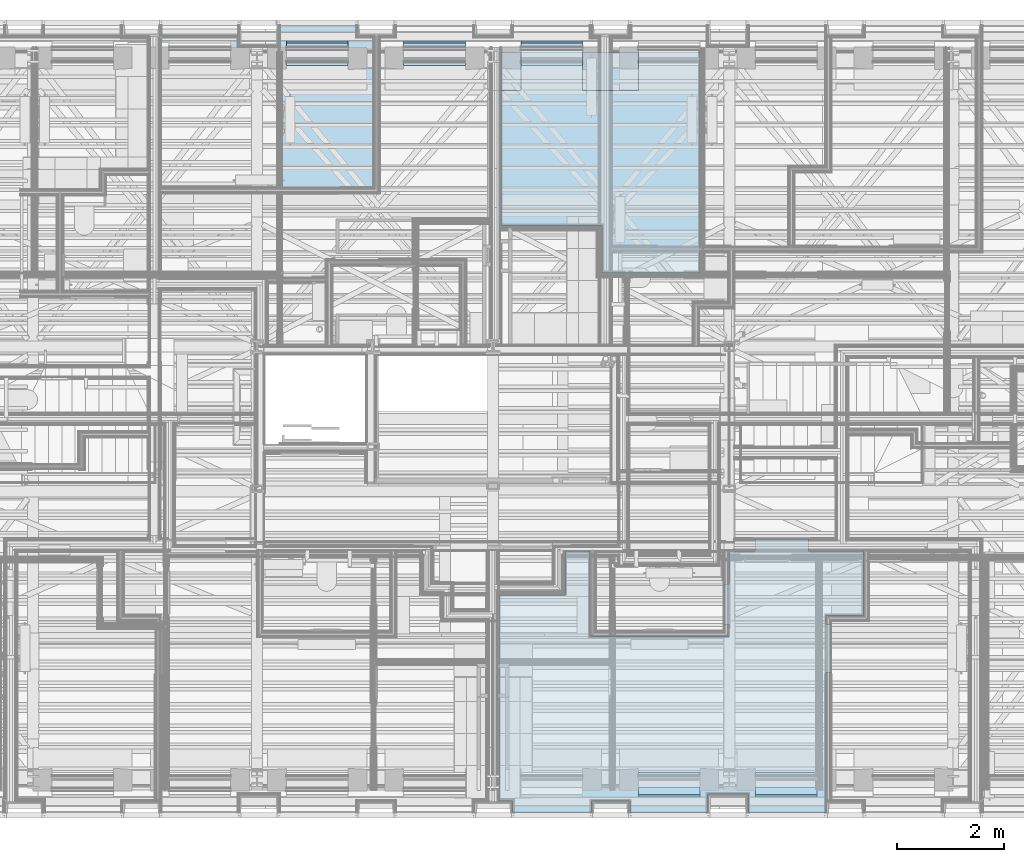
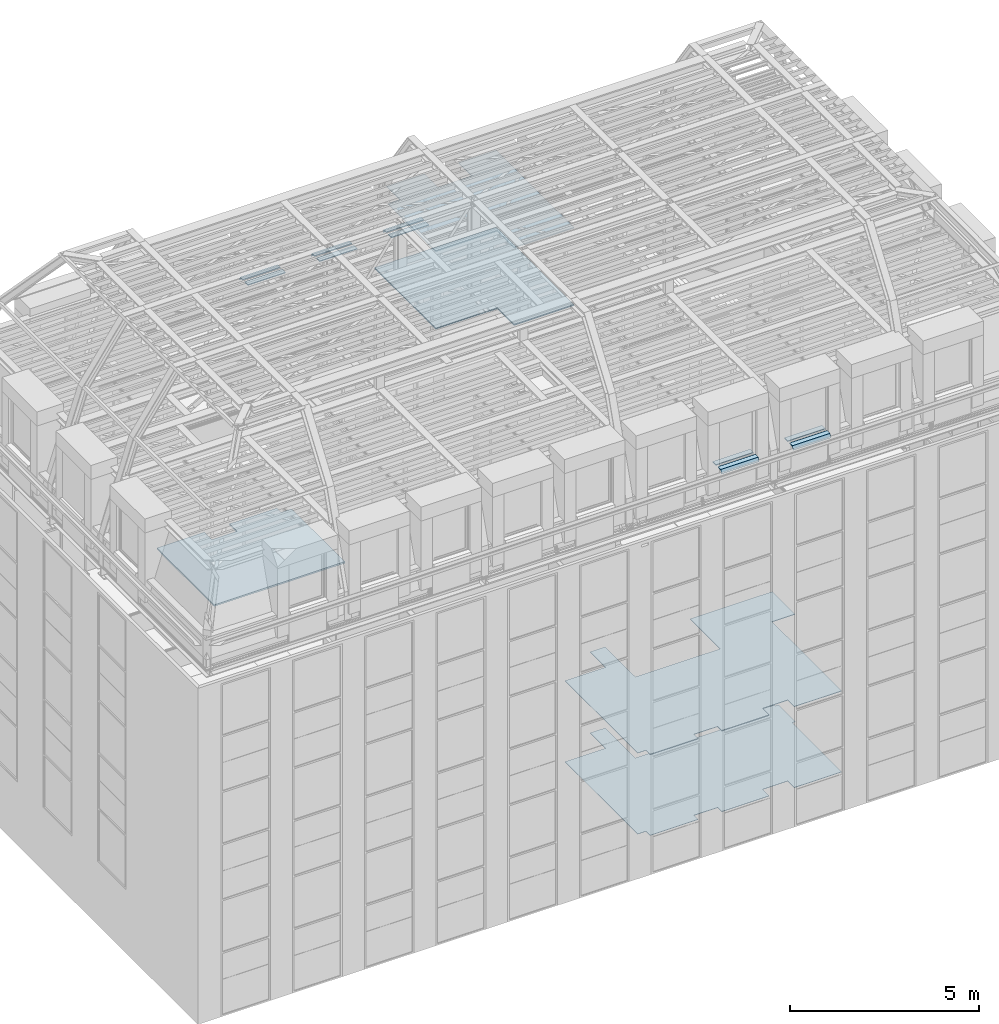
# One storey, part 90 of 183: 22 slabs.
"""IFC2X3 building model written with IfcOpenShell, lengths in metres."""

from ifc_helpers import new_model, entity, si_unit, converted_unit, derived_unit, money_unit, direction, frame, origin_with_axes, place, context, subcontext, project, spatial, faceted_brep, material, type_object, element, save


model = new_model("IFC2X3")

# Units and contexts
model_context = context("Model", 3, precision=1e-05, world=origin_with_axes(), true_north=direction((0.0, 1.0)))
body_context = subcontext(model_context, "Body", "Model", "MODEL_VIEW", scale=1.0)
ifc_project = project(units=[si_unit("LENGTHUNIT", "METRE"), si_unit("AREAUNIT", "SQUARE_METRE"), si_unit("VOLUMEUNIT", "CUBIC_METRE"), si_unit("ABSORBEDDOSEUNIT", "GRAY"), si_unit("AMOUNTOFSUBSTANCEUNIT", "MOLE"), si_unit("DOSEEQUIVALENTUNIT", "SIEVERT"), si_unit("ELECTRICCAPACITANCEUNIT", "FARAD"), si_unit("ELECTRICCHARGEUNIT", "COULOMB"), si_unit("ELECTRICCONDUCTANCEUNIT", "SIEMENS"), si_unit("ELECTRICCURRENTUNIT", "AMPERE"), si_unit("ELECTRICRESISTANCEUNIT", "OHM"), si_unit("ELECTRICVOLTAGEUNIT", "VOLT"), si_unit("ENERGYUNIT", "JOULE"), si_unit("FORCEUNIT", "NEWTON"), si_unit("FREQUENCYUNIT", "HERTZ"), si_unit("ILLUMINANCEUNIT", "LUX"), si_unit("INDUCTANCEUNIT", "HENRY"), si_unit("LUMINOUSFLUXUNIT", "LUMEN"), si_unit("LUMINOUSINTENSITYUNIT", "CANDELA"), si_unit("MAGNETICFLUXDENSITYUNIT", "TESLA"), si_unit("MAGNETICFLUXUNIT", "WEBER"), si_unit("MASSUNIT", "GRAM"), converted_unit("PLANEANGLEUNIT", "degree", entity("IfcReal", 0.0174532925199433), si_unit("PLANEANGLEUNIT", "RADIAN"), dimensions=[0, 0, 0, 0, 0, 0, 0]), si_unit("POWERUNIT", "WATT"), si_unit("PRESSUREUNIT", "PASCAL"), si_unit("RADIOACTIVITYUNIT", "BECQUEREL"), si_unit("SOLIDANGLEUNIT", "STERADIAN"), si_unit("THERMODYNAMICTEMPERATUREUNIT", "KELVIN"), si_unit("TIMEUNIT", "SECOND"), derived_unit("ACCELERATIONUNIT", [(si_unit("LENGTHUNIT", "METRE"), 1), (si_unit("TIMEUNIT", "SECOND"), -2)]), derived_unit("ANGULARVELOCITYUNIT", [(converted_unit("PLANEANGLEUNIT", "degree", entity("IfcReal", 0.0174532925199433), si_unit("PLANEANGLEUNIT", "RADIAN"), dimensions=[0, 0, 0, 0, 0, 0, 0]), 1), (si_unit("TIMEUNIT", "SECOND"), -1)]), derived_unit("CURVATUREUNIT", [(converted_unit("PLANEANGLEUNIT", "degree", entity("IfcReal", 0.0174532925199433), si_unit("PLANEANGLEUNIT", "RADIAN"), dimensions=[0, 0, 0, 0, 0, 0, 0]), 1), (si_unit("LENGTHUNIT", "METRE"), -1)]), derived_unit("DYNAMICVISCOSITYUNIT", [(si_unit("PRESSUREUNIT", "PASCAL"), 1), (si_unit("TIMEUNIT", "SECOND"), 1)]), derived_unit("HEATFLUXDENSITYUNIT", [(si_unit("POWERUNIT", "WATT"), 1), (si_unit("LENGTHUNIT", "METRE"), -2)]), derived_unit("HEATINGVALUEUNIT", [(si_unit("ENERGYUNIT", "JOULE"), 1), (si_unit("MASSUNIT", "GRAM"), -1)]), derived_unit("INTEGERCOUNTRATEUNIT", [(si_unit("TIMEUNIT", "SECOND"), -1)]), derived_unit("IONCONCENTRATIONUNIT", [(si_unit("MASSUNIT", "GRAM"), 1), (si_unit("VOLUMEUNIT", "CUBIC_METRE"), -1)]), derived_unit("ISOTHERMALMOISTURECAPACITYUNIT", [(si_unit("VOLUMEUNIT", "CUBIC_METRE"), 1), (si_unit("MASSUNIT", "GRAM"), -1)]), derived_unit("KINEMATICVISCOSITYUNIT", [(si_unit("AREAUNIT", "SQUARE_METRE"), 1), (si_unit("TIMEUNIT", "SECOND"), -1)]), derived_unit("LINEARFORCEUNIT", [(si_unit("FORCEUNIT", "NEWTON"), 1), (si_unit("LENGTHUNIT", "METRE"), -1)]), derived_unit("LINEARMOMENTUNIT", [(si_unit("FORCEUNIT", "NEWTON"), 1), (si_unit("LENGTHUNIT", "METRE"), -1)]), derived_unit("LINEARSTIFFNESSUNIT", [(si_unit("FORCEUNIT", "NEWTON"), 1), (si_unit("LENGTHUNIT", "METRE"), -1)]), derived_unit("LINEARVELOCITYUNIT", [(si_unit("LENGTHUNIT", "METRE"), 1), (si_unit("TIMEUNIT", "SECOND"), -1)]), derived_unit("LUMINOUSINTENSITYDISTRIBUTIONUNIT", [(si_unit("LUMINOUSINTENSITYUNIT", "CANDELA"), 1), (si_unit("LUMINOUSFLUXUNIT", "LUMEN"), -1)]), derived_unit("MASSDENSITYUNIT", [(si_unit("MASSUNIT", "GRAM"), 1), (si_unit("VOLUMEUNIT", "CUBIC_METRE"), -1)]), derived_unit("MASSFLOWRATEUNIT", [(si_unit("MASSUNIT", "GRAM"), 1), (si_unit("TIMEUNIT", "SECOND"), -1)]), derived_unit("MASSPERLENGTHUNIT", [(si_unit("MASSUNIT", "GRAM"), 1), (si_unit("LENGTHUNIT", "METRE"), -1)]), derived_unit("MODULUSOFELASTICITYUNIT", [(si_unit("FORCEUNIT", "NEWTON"), 1), (si_unit("AREAUNIT", "SQUARE_METRE"), -1)]), derived_unit("MODULUSOFLINEARSUBGRADEREACTIONUNIT", [(si_unit("FORCEUNIT", "NEWTON"), 1), (si_unit("LENGTHUNIT", "METRE"), -2)]), derived_unit("MODULUSOFROTATIONALSUBGRADEREACTIONUNIT", [(si_unit("FORCEUNIT", "NEWTON"), 1), (si_unit("LENGTHUNIT", "METRE"), 1)]), derived_unit("MODULUSOFSUBGRADEREACTIONUNIT", [(si_unit("FORCEUNIT", "NEWTON"), 1), (si_unit("VOLUMEUNIT", "CUBIC_METRE"), -1)]), derived_unit("MOISTUREDIFFUSIVITYUNIT", [(si_unit("VOLUMEUNIT", "CUBIC_METRE"), 1), (si_unit("TIMEUNIT", "SECOND"), -1)]), derived_unit("MOLECULARWEIGHTUNIT", [(si_unit("MASSUNIT", "GRAM"), 1), (si_unit("AMOUNTOFSUBSTANCEUNIT", "MOLE"), -1)]), derived_unit("PLANARFORCEUNIT", [(si_unit("FORCEUNIT", "NEWTON"), 1), (si_unit("LENGTHUNIT", "METRE"), -2)]), derived_unit("ROTATIONALFREQUENCYUNIT", [(si_unit("TIMEUNIT", "SECOND"), -1)]), derived_unit("ROTATIONALMASSUNIT", [(si_unit("MASSUNIT", "GRAM"), 1), (si_unit("LENGTHUNIT", "METRE"), 2)]), derived_unit("ROTATIONALSTIFFNESSUNIT", [(si_unit("FORCEUNIT", "NEWTON"), 1), (si_unit("LENGTHUNIT", "METRE"), 1), (converted_unit("PLANEANGLEUNIT", "degree", entity("IfcReal", 0.0174532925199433), si_unit("PLANEANGLEUNIT", "RADIAN"), dimensions=[0, 0, 0, 0, 0, 0, 0]), -1)]), derived_unit("SECTIONAREAINTEGRALUNIT", [(si_unit("LENGTHUNIT", "METRE"), 5)]), derived_unit("SECTIONMODULUSUNIT", [(si_unit("LENGTHUNIT", "METRE"), 3)]), derived_unit("SHEARMODULUSUNIT", [(si_unit("FORCEUNIT", "NEWTON"), 1), (si_unit("AREAUNIT", "SQUARE_METRE"), -1)]), derived_unit("SOUNDPOWERUNIT", [(si_unit("ENERGYUNIT", "JOULE"), 1), (si_unit("TIMEUNIT", "SECOND"), -1)]), derived_unit("SPECIFICHEATCAPACITYUNIT", [(si_unit("FORCEUNIT", "NEWTON"), 1), (si_unit("MASSUNIT", "GRAM"), -1), (si_unit("THERMODYNAMICTEMPERATUREUNIT", "KELVIN"), -1)]), derived_unit("TEMPERATUREGRADIENTUNIT", [(si_unit("THERMODYNAMICTEMPERATUREUNIT", "KELVIN"), 1), (si_unit("LENGTHUNIT", "METRE"), -1)]), derived_unit("THERMALADMITTANCEUNIT", [(si_unit("POWERUNIT", "WATT"), 1), (si_unit("AREAUNIT", "SQUARE_METRE"), -1), (si_unit("THERMODYNAMICTEMPERATUREUNIT", "KELVIN"), -1)]), derived_unit("THERMALCONDUCTANCEUNIT", [(si_unit("POWERUNIT", "WATT"), 1), (si_unit("LENGTHUNIT", "METRE"), -1), (si_unit("THERMODYNAMICTEMPERATUREUNIT", "KELVIN"), -1)]), derived_unit("THERMALEXPANSIONCOEFFICIENTUNIT", [(si_unit("THERMODYNAMICTEMPERATUREUNIT", "KELVIN"), -1)]), derived_unit("THERMALRESISTANCEUNIT", [(si_unit("AREAUNIT", "SQUARE_METRE"), 1), (si_unit("POWERUNIT", "WATT"), -1)]), derived_unit("THERMALTRANSMITTANCEUNIT", [(si_unit("POWERUNIT", "WATT"), 1), (si_unit("AREAUNIT", "SQUARE_METRE"), -1), (si_unit("THERMODYNAMICTEMPERATUREUNIT", "KELVIN"), -1)]), derived_unit("TORQUEUNIT", [(si_unit("FORCEUNIT", "NEWTON"), 1), (si_unit("LENGTHUNIT", "METRE"), 1)]), derived_unit("VAPORPERMEABILITYUNIT", [(si_unit("MASSUNIT", "GRAM"), 1), (si_unit("TIMEUNIT", "SECOND"), -1)]), derived_unit("VOLUMETRICFLOWRATEUNIT", [(si_unit("VOLUMEUNIT", "CUBIC_METRE"), 1), (si_unit("TIMEUNIT", "SECOND"), -1)]), derived_unit("WARPINGCONSTANTUNIT", [(si_unit("LENGTHUNIT", "METRE"), 6)]), derived_unit("WARPINGMOMENTUNIT", [(si_unit("FORCEUNIT", "NEWTON"), 1), (si_unit("LENGTHUNIT", "METRE"), 2)]), money_unit("GBP")], contexts=[model_context])

# Site, building, storey
site_placement = place(None, origin_with_axes())
site = spatial("IfcSite", under=ifc_project, at=site_placement, Name="Site", CompositionType="ELEMENT")
building_placement = place(site_placement, origin_with_axes())
building = spatial("IfcBuilding", under=site, at=building_placement, Name="Building01", CompositionType="ELEMENT")
storey_placement = place(building_placement, frame((0.0, 0.0, 5.15), z_axis=(0.0, 0.0, 1.0), x_axis=(1.0, 0.0, 0.0)))
storey = spatial("IfcBuildingStorey", under=building, at=storey_placement, Name="1F", CompositionType="ELEMENT", Elevation=5.15)

# Slabs
ifc_material_1 = material(Name="A_BSUK_Parquet_Floor")
slab_type_1 = type_object("IfcSlabType", Name="A-FloorsSlabs A_BSUK_Slabs", PredefinedType="FLOOR")
placement = place(storey_placement, frame((0.0, 0.0, -5.15), z_axis=(0.0, 0.0, 1.0), x_axis=(1.0, 0.0, 0.0)))
element("IfcSlab", 1, at=placement, inside=storey, type_object=slab_type_1, material=ifc_material_1, Name="A-FloorsSlabs A_BSUK_Slabs", ObjectType="CompoundSlabLeaf", context=body_context, shape_type="Brep", body=[
    faceted_brep([(18.392, 4.98, 5.153), (18.392, 4.98, 5.165), (18.392, 5.205, 5.165), (18.392, 5.205, 5.153), (17.9025, 4.98, 5.153), (17.9025, 4.98, 5.165), (17.9025, 4.363781, 5.153), (17.9025, 4.363781, 5.165), (17.8075, 4.363781, 5.153), (17.8075, 4.363781, 5.165), (17.8075, 3.613781, 5.153), (17.8075, 3.613781, 5.165), (17.9025, 3.613781, 5.153), (17.9025, 3.613781, 5.165), (17.9025, 3.385, 5.153), (17.9025, 3.385, 5.165), (15.3125, 3.385, 5.153), (15.3125, 3.385, 5.165), (15.3125, 4.98, 5.153), (15.3125, 4.98, 5.165), (14.85, 4.98, 5.153), (14.85, 4.98, 5.165), (14.85, 4.164428, 5.153), (14.85, 4.164428, 5.165), (13.6125, 4.164428, 5.153), (13.6125, 4.164428, 5.165), (13.6125, 0.318, 5.153), (13.6125, 0.318, 5.165), (13.865, 0.318, 5.153), (13.865, 0.318, 5.165), (13.865, 0.1, 5.153), (13.865, 0.1, 5.165), (15.335, 0.1, 5.153), (15.335, 0.1, 5.165), (15.335, 0.318, 5.153), (15.335, 0.318, 5.165), (16.055, 0.318, 5.153), (16.055, 0.318, 5.165), (16.055, 0.1, 5.153), (16.055, 0.1, 5.165), (17.502, 0.1, 5.153), (17.502, 0.1, 5.165), (17.502, 0.448, 5.153), (17.502, 0.448, 5.165), (18.268, 0.448, 5.153), (18.268, 0.448, 5.165), (18.268, 0.1, 5.153), (18.268, 0.1, 5.165), (19.715, 0.1, 5.153), (19.715, 0.1, 5.165), (19.715, 2.716, 5.153), (19.715, 2.716, 5.165), (19.81, 2.716, 5.153), (19.81, 2.716, 5.165), (19.81, 3.616, 5.153), (19.81, 3.616, 5.165), (19.715, 3.616, 5.153), (19.715, 3.616, 5.165), (19.715, 3.78, 5.153), (19.715, 3.78, 5.165), (20.415, 3.78, 5.153), (20.415, 3.78, 5.165), (20.415, 4.98, 5.153), (20.415, 4.98, 5.165), (19.392, 4.98, 5.153), (19.392, 4.98, 5.165), (19.392, 5.205, 5.153), (19.392, 5.205, 5.165)], [[[0, 1, 2, 3]], [[4, 5, 1, 0]], [[6, 7, 5, 4]], [[8, 9, 7, 6]], [[10, 11, 9, 8]], [[12, 13, 11, 10]], [[14, 15, 13, 12]], [[16, 17, 15, 14]], [[18, 19, 17, 16]], [[20, 21, 19, 18]], [[22, 23, 21, 20]], [[24, 25, 23, 22]], [[26, 27, 25, 24]], [[28, 29, 27, 26]], [[30, 31, 29, 28]], [[32, 33, 31, 30]], [[34, 35, 33, 32]], [[36, 37, 35, 34]], [[38, 39, 37, 36]], [[40, 41, 39, 38]], [[42, 43, 41, 40]], [[44, 45, 43, 42]], [[46, 47, 45, 44]], [[48, 49, 47, 46]], [[50, 51, 49, 48]], [[52, 53, 51, 50]], [[54, 55, 53, 52]], [[56, 57, 55, 54]], [[58, 59, 57, 56]], [[60, 61, 59, 58]], [[62, 63, 61, 60]], [[64, 65, 63, 62]], [[66, 67, 65, 64]], [[3, 2, 67, 66]], [[1, 5, 7, 9, 11, 13, 15, 17, 19, 21, 23, 25, 27, 29, 31, 33, 35, 37, 39, 41, 43, 45, 47, 49, 51, 53, 55, 57, 59, 61, 63, 65, 67, 2]], [[3, 66, 64, 62, 60, 58, 56, 54, 52, 50, 48, 46, 44, 42, 40, 38, 36, 34, 32, 30, 28, 26, 24, 22, 20, 18, 16, 14, 12, 10, 8, 6, 4, 0]]]),
])
ifc_material_2 = material(Name="A_BSUK_CeilingSoffitFinishes_Suspended")
element("IfcSlab", 2, at=placement, inside=storey, type_object=slab_type_1, material=ifc_material_2, Name="A-FloorsSlabs A_BSUK_Slabs", ObjectType="CompoundSlabLeaf", context=body_context, shape_type="Brep", body=[
    faceted_brep([(17.9025, 4.98, 7.765), (17.9025, 4.98, 7.78), (18.395, 4.98, 7.78), (18.395, 4.98, 7.765), (17.9025, 4.232781, 7.765), (17.9025, 4.232781, 7.78), (17.9025, 3.385, 7.765), (17.9025, 3.385, 7.78), (15.3125, 3.385, 7.765), (15.3125, 3.385, 7.78), (15.3125, 4.98, 7.765), (15.3125, 4.98, 7.78), (14.85, 4.98, 7.765), (14.85, 4.98, 7.78), (14.85, 4.164428, 7.765), (14.85, 4.164428, 7.78), (13.6125, 4.164428, 7.765), (13.6125, 4.164428, 7.78), (13.6125, 0.318, 7.765), (13.6125, 0.318, 7.78), (13.865, 0.318, 7.765), (13.865, 0.318, 7.78), (13.865, 0.1, 7.765), (13.865, 0.1, 7.78), (15.335, 0.1, 7.765), (15.335, 0.1, 7.78), (15.335, 0.318, 7.765), (15.335, 0.318, 7.78), (16.055, 0.318, 7.765), (16.055, 0.318, 7.78), (16.055, 0.1, 7.765), (16.055, 0.1, 7.78), (17.502, 0.1, 7.765), (17.502, 0.1, 7.78), (17.502, 0.448, 7.765), (17.502, 0.448, 7.78), (18.268, 0.448, 7.765), (18.268, 0.448, 7.78), (18.268, 0.1, 7.765), (18.268, 0.1, 7.78), (19.715, 0.1, 7.765), (19.715, 0.1, 7.78), (19.715, 3.151781, 7.765), (19.715, 3.151781, 7.78), (19.715, 3.78, 7.765), (19.715, 3.78, 7.78), (20.415, 3.78, 7.765), (20.415, 3.78, 7.78), (20.415, 4.98, 7.765), (20.415, 4.98, 7.78), (19.395, 4.98, 7.765), (19.395, 4.98, 7.78)], [[[0, 1, 2, 3]], [[4, 5, 1, 0]], [[6, 7, 5, 4]], [[8, 9, 7, 6]], [[10, 11, 9, 8]], [[12, 13, 11, 10]], [[14, 15, 13, 12]], [[16, 17, 15, 14]], [[18, 19, 17, 16]], [[20, 21, 19, 18]], [[22, 23, 21, 20]], [[24, 25, 23, 22]], [[26, 27, 25, 24]], [[28, 29, 27, 26]], [[30, 31, 29, 28]], [[32, 33, 31, 30]], [[34, 35, 33, 32]], [[36, 37, 35, 34]], [[38, 39, 37, 36]], [[40, 41, 39, 38]], [[42, 43, 41, 40]], [[44, 45, 43, 42]], [[46, 47, 45, 44]], [[48, 49, 47, 46]], [[50, 51, 49, 48]], [[3, 2, 51, 50]], [[1, 5, 7, 9, 11, 13, 15, 17, 19, 21, 23, 25, 27, 29, 31, 33, 35, 37, 39, 41, 43, 45, 47, 49, 51, 2]], [[3, 50, 48, 46, 44, 42, 40, 38, 36, 34, 32, 30, 28, 26, 24, 22, 20, 18, 16, 14, 12, 10, 8, 6, 4, 0]]]),
])
ifc_material_3 = material(Name="A_BSUK_Timber_Miscellaneous")
slab_3_placement = place(storey_placement, frame((15.170024, 14.324696, 10.78), z_axis=(0.0, 0.0, 1.0), x_axis=(1.0, 0.0, 0.0)))
element("IfcSlab", 3, at=slab_3_placement, inside=storey, type_object=slab_type_1, material=ifc_material_3, Name="A-FloorsSlabs A_BSUK_Slabs", ObjectType="A-FloorsSlabs A_BSUK_Slabs", context=body_context, shape_type="Brep", body=[
    faceted_brep([(0.0, 0.0, 0.022498), (-1.15, 0.0, 0.022498), (-1.15, 0.0, 0.0), (0.0, 0.0, 0.0), (0.0, 0.142391, 0.017505), (-1.15, 0.142391, 0.017505), (0.0, 0.148079, 0.0), (-1.15, 0.148079, 0.0)], [[[0, 1, 2, 3]], [[4, 5, 1, 0]], [[6, 7, 5, 4]], [[3, 2, 7, 6]], [[1, 5, 7, 2]], [[3, 6, 4, 0]]]),
])
ifc_material_4 = material(Name="A_BSUK_Steel_Miscellaneous")
slab_4_placement = place(storey_placement, frame((15.170024, 14.324696, 10.802498), z_axis=(0.0, 0.0, 1.0), x_axis=(1.0, 0.0, 0.0)))
element("IfcSlab", 4, at=slab_4_placement, inside=storey, type_object=slab_type_1, material=ifc_material_4, Name="A-FloorsSlabs A_BSUK_Slabs", ObjectType="A-FloorsSlabs A_BSUK_Slabs", context=body_context, shape_type="Brep", body=[
    faceted_brep([(0.0, 0.0, 0.007502), (-1.15, 0.0, 0.007502), (-1.15, 0.0, 0.0), (0.0, 0.0, 0.0), (0.0, 0.001, 0.007502), (-1.15, 0.001, 0.007502), (0.0, 0.0025, 0.002414), (-1.15, 0.0025, 0.002414), (0.0, 0.144228, -0.002556), (-1.15, 0.144228, -0.002556), (0.0, 0.183199, -0.122498), (-1.15, 0.183199, -0.122498), (0.0, 0.183199, -0.127498), (-1.15, 0.183199, -0.127498), (0.0, 0.180699, -0.127498), (-1.15, 0.180699, -0.127498), (0.0, 0.180699, -0.122894), (-1.15, 0.180699, -0.122894), (0.0, 0.142391, -0.004993), (-1.15, 0.142391, -0.004993)], [[[0, 1, 2, 3]], [[4, 5, 1, 0]], [[6, 7, 5, 4]], [[8, 9, 7, 6]], [[10, 11, 9, 8]], [[12, 13, 11, 10]], [[14, 15, 13, 12]], [[16, 17, 15, 14]], [[18, 19, 17, 16]], [[3, 2, 19, 18]], [[1, 5, 7, 9, 11, 13, 15, 17, 19, 2]], [[3, 18, 16, 14, 12, 10, 8, 6, 4, 0]]]),
])
slab_5_placement = place(storey_placement, frame((12.980024, 14.324696, 10.78), z_axis=(0.0, 0.0, 1.0), x_axis=(1.0, 0.0, 0.0)))
element("IfcSlab", 5, at=slab_5_placement, inside=storey, type_object=slab_type_1, material=ifc_material_3, Name="A-FloorsSlabs A_BSUK_Slabs", ObjectType="A-FloorsSlabs A_BSUK_Slabs", context=body_context, shape_type="Brep", body=[
    faceted_brep([(0.0, 0.0, 0.022498), (-1.15, 0.0, 0.022498), (-1.15, 0.0, 0.0), (0.0, 0.0, 0.0), (0.0, 0.142391, 0.017505), (-1.15, 0.142391, 0.017505), (0.0, 0.148079, 0.0), (-1.15, 0.148079, 0.0)], [[[0, 1, 2, 3]], [[4, 5, 1, 0]], [[6, 7, 5, 4]], [[3, 2, 7, 6]], [[1, 5, 7, 2]], [[3, 6, 4, 0]]]),
])
slab_6_placement = place(storey_placement, frame((12.980024, 14.324696, 10.802498), z_axis=(0.0, 0.0, 1.0), x_axis=(1.0, 0.0, 0.0)))
element("IfcSlab", 6, at=slab_6_placement, inside=storey, type_object=slab_type_1, material=ifc_material_4, Name="A-FloorsSlabs A_BSUK_Slabs", ObjectType="A-FloorsSlabs A_BSUK_Slabs", context=body_context, shape_type="Brep", body=[
    faceted_brep([(0.0, 0.0, 0.007502), (-1.15, 0.0, 0.007502), (-1.15, 0.0, 0.0), (0.0, 0.0, 0.0), (0.0, 0.001, 0.007502), (-1.15, 0.001, 0.007502), (0.0, 0.0025, 0.002414), (-1.15, 0.0025, 0.002414), (0.0, 0.144228, -0.002556), (-1.15, 0.144228, -0.002556), (0.0, 0.183199, -0.122498), (-1.15, 0.183199, -0.122498), (0.0, 0.183199, -0.127498), (-1.15, 0.183199, -0.127498), (0.0, 0.180699, -0.127498), (-1.15, 0.180699, -0.127498), (0.0, 0.180699, -0.122894), (-1.15, 0.180699, -0.122894), (0.0, 0.142391, -0.004993), (-1.15, 0.142391, -0.004993)], [[[0, 1, 2, 3]], [[4, 5, 1, 0]], [[6, 7, 5, 4]], [[8, 9, 7, 6]], [[10, 11, 9, 8]], [[12, 13, 11, 10]], [[14, 15, 13, 12]], [[16, 17, 15, 14]], [[18, 19, 17, 16]], [[3, 2, 19, 18]], [[1, 5, 7, 9, 11, 13, 15, 17, 19, 2]], [[3, 18, 16, 14, 12, 10, 8, 6, 4, 0]]]),
])
slab_7_placement = place(storey_placement, frame((10.790024, 14.324696, 10.78), z_axis=(0.0, 0.0, 1.0), x_axis=(1.0, 0.0, 0.0)))
element("IfcSlab", 7, at=slab_7_placement, inside=storey, type_object=slab_type_1, material=ifc_material_3, Name="A-FloorsSlabs A_BSUK_Slabs", ObjectType="A-FloorsSlabs A_BSUK_Slabs", context=body_context, shape_type="Brep", body=[
    faceted_brep([(0.0, 0.0, 0.022498), (-1.15, 0.0, 0.022498), (-1.15, 0.0, 0.0), (0.0, 0.0, 0.0), (0.0, 0.142391, 0.017505), (-1.15, 0.142391, 0.017505), (0.0, 0.148079, 0.0), (-1.15, 0.148079, 0.0)], [[[0, 1, 2, 3]], [[4, 5, 1, 0]], [[6, 7, 5, 4]], [[3, 2, 7, 6]], [[1, 5, 7, 2]], [[3, 6, 4, 0]]]),
])
slab_8_placement = place(storey_placement, frame((10.790024, 14.324696, 10.802498), z_axis=(0.0, 0.0, 1.0), x_axis=(1.0, 0.0, 0.0)))
element("IfcSlab", 8, at=slab_8_placement, inside=storey, type_object=slab_type_1, material=ifc_material_4, Name="A-FloorsSlabs A_BSUK_Slabs", ObjectType="A-FloorsSlabs A_BSUK_Slabs", context=body_context, shape_type="Brep", body=[
    faceted_brep([(0.0, 0.0, 0.007502), (-1.15, 0.0, 0.007502), (-1.15, 0.0, 0.0), (0.0, 0.0, 0.0), (0.0, 0.001, 0.007502), (-1.15, 0.001, 0.007502), (0.0, 0.0025, 0.002414), (-1.15, 0.0025, 0.002414), (0.0, 0.144228, -0.002556), (-1.15, 0.144228, -0.002556), (0.0, 0.183199, -0.122498), (-1.15, 0.183199, -0.122498), (0.0, 0.183199, -0.127498), (-1.15, 0.183199, -0.127498), (0.0, 0.180699, -0.127498), (-1.15, 0.180699, -0.127498), (0.0, 0.180699, -0.122894), (-1.15, 0.180699, -0.122894), (0.0, 0.142391, -0.004993), (-1.15, 0.142391, -0.004993)], [[[0, 1, 2, 3]], [[4, 5, 1, 0]], [[6, 7, 5, 4]], [[8, 9, 7, 6]], [[10, 11, 9, 8]], [[12, 13, 11, 10]], [[14, 15, 13, 12]], [[16, 17, 15, 14]], [[18, 19, 17, 16]], [[3, 2, 19, 18]], [[1, 5, 7, 9, 11, 13, 15, 17, 19, 2]], [[3, 18, 16, 14, 12, 10, 8, 6, 4, 0]]]),
])
slab_9_placement = place(storey_placement, frame((17.360024, 0.575339, 10.78), z_axis=(0.0, 0.0, 1.0), x_axis=(-1.0, 0.0, 0.0)))
element("IfcSlab", 9, at=slab_9_placement, inside=storey, type_object=slab_type_1, material=ifc_material_3, Name="A-FloorsSlabs A_BSUK_Slabs", ObjectType="A-FloorsSlabs A_BSUK_Slabs", context=body_context, shape_type="Brep", body=[
    faceted_brep([(0.0, 0.0, 0.0), (1.15, 0.0, 0.0), (1.15, 0.0, 0.022498), (0.0, 0.0, 0.022498), (1.15, 0.142391, 0.017505), (0.0, 0.142391, 0.017505), (1.15, 0.148079, 0.0), (0.0, 0.148079, 0.0)], [[[0, 1, 2, 3]], [[3, 2, 4, 5]], [[5, 4, 6, 7]], [[7, 6, 1, 0]], [[1, 6, 4, 2]], [[3, 5, 7, 0]]]),
])
slab_10_placement = place(storey_placement, frame((17.360024, 0.575339, 10.802498), z_axis=(0.0, 0.0, 1.0), x_axis=(-1.0, 0.0, 0.0)))
element("IfcSlab", 10, at=slab_10_placement, inside=storey, type_object=slab_type_1, material=ifc_material_4, Name="A-FloorsSlabs A_BSUK_Slabs", ObjectType="A-FloorsSlabs A_BSUK_Slabs", context=body_context, shape_type="Brep", body=[
    faceted_brep([(0.0, 0.0, 0.0), (1.15, 0.0, 0.0), (1.15, 0.0, 0.007502), (0.0, 0.0, 0.007502), (1.15, 0.001, 0.007502), (0.0, 0.001, 0.007502), (1.15, 0.0025, 0.002414), (0.0, 0.0025, 0.002414), (1.15, 0.144228, -0.002556), (0.0, 0.144228, -0.002556), (1.15, 0.183199, -0.122498), (0.0, 0.183199, -0.122498), (1.15, 0.183199, -0.127498), (0.0, 0.183199, -0.127498), (1.15, 0.180699, -0.127498), (0.0, 0.180699, -0.127498), (1.15, 0.180699, -0.122894), (0.0, 0.180699, -0.122894), (1.15, 0.142391, -0.004993), (0.0, 0.142391, -0.004993)], [[[0, 1, 2, 3]], [[3, 2, 4, 5]], [[5, 4, 6, 7]], [[7, 6, 8, 9]], [[9, 8, 10, 11]], [[11, 10, 12, 13]], [[13, 12, 14, 15]], [[15, 14, 16, 17]], [[17, 16, 18, 19]], [[19, 18, 1, 0]], [[1, 18, 16, 14, 12, 10, 8, 6, 4, 2]], [[3, 5, 7, 9, 11, 13, 15, 17, 19, 0]]]),
])
slab_11_placement = place(storey_placement, frame((19.550024, 0.575339, 10.78), z_axis=(0.0, 0.0, 1.0), x_axis=(-1.0, 0.0, 0.0)))
element("IfcSlab", 11, at=slab_11_placement, inside=storey, type_object=slab_type_1, material=ifc_material_3, Name="A-FloorsSlabs A_BSUK_Slabs", ObjectType="A-FloorsSlabs A_BSUK_Slabs", context=body_context, shape_type="Brep", body=[
    faceted_brep([(0.0, 0.0, 0.0), (1.15, 0.0, 0.0), (1.15, 0.0, 0.022498), (0.0, 0.0, 0.022498), (1.15, 0.142391, 0.017505), (0.0, 0.142391, 0.017505), (1.15, 0.148079, 0.0), (0.0, 0.148079, 0.0)], [[[0, 1, 2, 3]], [[3, 2, 4, 5]], [[5, 4, 6, 7]], [[7, 6, 1, 0]], [[1, 6, 4, 2]], [[3, 5, 7, 0]]]),
])
slab_12_placement = place(storey_placement, frame((19.550024, 0.575339, 10.802498), z_axis=(0.0, 0.0, 1.0), x_axis=(-1.0, 0.0, 0.0)))
element("IfcSlab", 12, at=slab_12_placement, inside=storey, type_object=slab_type_1, material=ifc_material_4, Name="A-FloorsSlabs A_BSUK_Slabs", ObjectType="A-FloorsSlabs A_BSUK_Slabs", context=body_context, shape_type="Brep", body=[
    faceted_brep([(0.0, 0.0, 0.0), (1.15, 0.0, 0.0), (1.15, 0.0, 0.007502), (0.0, 0.0, 0.007502), (1.15, 0.001, 0.007502), (0.0, 0.001, 0.007502), (1.15, 0.0025, 0.002414), (0.0, 0.0025, 0.002414), (1.15, 0.144228, -0.002556), (0.0, 0.144228, -0.002556), (1.15, 0.183199, -0.122498), (0.0, 0.183199, -0.122498), (1.15, 0.183199, -0.127498), (0.0, 0.183199, -0.127498), (1.15, 0.180699, -0.127498), (0.0, 0.180699, -0.127498), (1.15, 0.180699, -0.122894), (0.0, 0.180699, -0.122894), (1.15, 0.142391, -0.004993), (0.0, 0.142391, -0.004993)], [[[0, 1, 2, 3]], [[3, 2, 4, 5]], [[5, 4, 6, 7]], [[7, 6, 8, 9]], [[9, 8, 10, 11]], [[11, 10, 12, 13]], [[13, 12, 14, 15]], [[15, 14, 16, 17]], [[17, 16, 18, 19]], [[19, 18, 1, 0]], [[1, 18, 16, 14, 12, 10, 8, 6, 4, 2]], [[3, 5, 7, 9, 11, 13, 15, 17, 19, 0]]]),
])
element("IfcSlab", 13, at=placement, inside=storey, type_object=slab_type_1, material=ifc_material_2, Name="A-FloorsSlabs A_BSUK_Slabs", ObjectType="CompoundSlabLeaf", context=body_context, shape_type="Brep", body=[
    faceted_brep([(13.65, 11.063789, 17.423), (13.65, 11.063789, 17.438), (13.65, 13.587598, 17.438), (13.65, 13.587598, 17.423), (15.529998, 11.063789, 17.423), (15.529998, 11.063789, 17.438), (15.529998, 10.179939, 17.423), (15.529998, 10.179939, 17.438), (17.360024, 10.179939, 17.423), (17.360024, 10.179939, 17.438), (17.360024, 14.300061, 17.423), (17.360024, 14.300061, 17.438), (16.210024, 14.300061, 17.423), (16.210024, 14.300061, 17.438), (16.210024, 13.587598, 17.423), (16.210024, 13.587598, 17.438), (15.169976, 13.587598, 17.423), (15.169976, 13.587598, 17.438), (15.169976, 14.300061, 17.423), (15.169976, 14.300061, 17.438), (14.020024, 14.300061, 17.423), (14.020024, 14.300061, 17.438), (14.020024, 13.587598, 17.423), (14.020024, 13.587598, 17.438)], [[[0, 1, 2, 3]], [[4, 5, 1, 0]], [[6, 7, 5, 4]], [[8, 9, 7, 6]], [[10, 11, 9, 8]], [[12, 13, 11, 10]], [[14, 15, 13, 12]], [[16, 17, 15, 14]], [[18, 19, 17, 16]], [[20, 21, 19, 18]], [[22, 23, 21, 20]], [[3, 2, 23, 22]], [[1, 5, 7, 9, 11, 13, 15, 17, 19, 21, 23, 2]], [[3, 22, 20, 18, 16, 14, 12, 10, 8, 6, 4, 0]]]),
])
ifc_material_5 = material(Name="A_BSUK_ExpandedPolystyreneBoards")
element("IfcSlab", 14, at=placement, inside=storey, type_object=slab_type_1, material=ifc_material_5, Name="A-FloorsSlabs A_BSUK_Slabs", ObjectType="CompoundSlabLeaf", context=body_context, shape_type="Brep", body=[
    faceted_brep([(13.65, 11.063789, 14.92), (13.65, 11.063789, 14.952), (13.65, 14.2962, 14.952), (13.65, 14.2962, 14.92), (15.529998, 11.063789, 14.92), (15.529998, 11.063789, 14.952), (15.529998, 10.179939, 14.92), (15.529998, 10.179939, 14.952), (17.360024, 10.179939, 14.92), (17.360024, 10.179939, 14.952), (17.360024, 14.2962, 14.92), (17.360024, 14.2962, 14.952), (16.210024, 14.2962, 14.92), (16.210024, 14.2962, 14.952), (15.169976, 14.2962, 14.92), (15.169976, 14.2962, 14.952), (14.020024, 14.2962, 14.92), (14.020024, 14.2962, 14.952)], [[[0, 1, 2, 3]], [[4, 5, 1, 0]], [[6, 7, 5, 4]], [[8, 9, 7, 6]], [[10, 11, 9, 8]], [[12, 13, 11, 10]], [[14, 15, 13, 12]], [[16, 17, 15, 14]], [[3, 2, 17, 16]], [[1, 5, 7, 9, 11, 13, 15, 17, 2]], [[3, 16, 14, 12, 10, 8, 6, 4, 0]]]),
])
element("IfcSlab", 15, at=placement, inside=storey, type_object=slab_type_1, material=ifc_material_3, Name="A-FloorsSlabs A_BSUK_Slabs", ObjectType="CompoundSlabLeaf", context=body_context, shape_type="Brep", body=[
    faceted_brep([(17.360024, 0.849939, 15.93), (17.360024, 0.849939, 15.955), (17.360024, 0.675339, 15.955), (17.360024, 0.675339, 15.93), (16.210024, 0.849939, 15.93), (16.210024, 0.849939, 15.955), (16.210025, 0.675339, 15.93), (16.210025, 0.675339, 15.955)], [[[0, 1, 2, 3]], [[4, 5, 1, 0]], [[6, 7, 5, 4]], [[3, 2, 7, 6]], [[1, 5, 7, 2]], [[3, 6, 4, 0]]]),
])
element("IfcSlab", 16, at=placement, inside=storey, type_object=slab_type_1, material=ifc_material_3, Name="A-FloorsSlabs A_BSUK_Slabs", ObjectType="CompoundSlabLeaf", context=body_context, shape_type="Brep", body=[
    faceted_brep([(19.550024, 0.849939, 15.93), (19.550024, 0.849939, 15.955), (19.550024, 0.675339, 15.955), (19.550024, 0.675339, 15.93), (18.400024, 0.849939, 15.93), (18.400024, 0.849939, 15.955), (18.400025, 0.675339, 15.93), (18.400025, 0.675339, 15.955)], [[[0, 1, 2, 3]], [[4, 5, 1, 0]], [[6, 7, 5, 4]], [[3, 2, 7, 6]], [[1, 5, 7, 2]], [[3, 6, 4, 0]]]),
])
element("IfcSlab", 17, at=placement, inside=storey, type_object=slab_type_1, material=ifc_material_3, Name="A-FloorsSlabs A_BSUK_Slabs", ObjectType="CompoundSlabLeaf", context=body_context, shape_type="Brep", body=[
    faceted_brep([(15.170024, 14.224661, 15.93), (15.170024, 14.224661, 15.955), (15.170024, 14.050061, 15.955), (15.170024, 14.050061, 15.93), (14.020024, 14.224661, 15.93), (14.020024, 14.224661, 15.955), (14.020024, 14.050062, 15.93), (14.020024, 14.050062, 15.955)], [[[0, 1, 2, 3]], [[4, 5, 1, 0]], [[6, 7, 5, 4]], [[3, 2, 7, 6]], [[1, 5, 7, 2]], [[3, 6, 4, 0]]]),
])
element("IfcSlab", 18, at=placement, inside=storey, type_object=slab_type_1, material=ifc_material_3, Name="A-FloorsSlabs A_BSUK_Slabs", ObjectType="CompoundSlabLeaf", context=body_context, shape_type="Brep", body=[
    faceted_brep([(12.980024, 14.224661, 15.93), (12.980024, 14.224661, 15.955), (12.980024, 14.050061, 15.955), (12.980024, 14.050061, 15.93), (11.830024, 14.224661, 15.93), (11.830024, 14.224661, 15.955), (11.830024, 14.050062, 15.93), (11.830024, 14.050062, 15.955)], [[[0, 1, 2, 3]], [[4, 5, 1, 0]], [[6, 7, 5, 4]], [[3, 2, 7, 6]], [[1, 5, 7, 2]], [[3, 6, 4, 0]]]),
])
element("IfcSlab", 19, at=placement, inside=storey, type_object=slab_type_1, material=ifc_material_3, Name="A-FloorsSlabs A_BSUK_Slabs", ObjectType="CompoundSlabLeaf", context=body_context, shape_type="Brep", body=[
    faceted_brep([(10.790024, 14.224661, 15.93), (10.790024, 14.224661, 15.955), (10.790024, 14.050061, 15.955), (10.790024, 14.050061, 15.93), (9.640024, 14.224661, 15.93), (9.640024, 14.224661, 15.955), (9.640024, 14.050062, 15.93), (9.640024, 14.050062, 15.955)], [[[0, 1, 2, 3]], [[4, 5, 1, 0]], [[6, 7, 5, 4]], [[3, 2, 7, 6]], [[1, 5, 7, 2]], [[3, 6, 4, 0]]]),
])
element("IfcSlab", 20, at=placement, inside=storey, type_object=slab_type_1, material=ifc_material_2, Name="A-FloorsSlabs A_BSUK_Slabs", ObjectType="CompoundSlabLeaf", context=body_context, shape_type="Brep", body=[
    faceted_brep([(13.65, 11.063789, 17.438), (13.65, 11.063789, 17.453), (13.65, 13.587598, 17.453), (13.65, 13.587598, 17.438), (15.529998, 11.063789, 17.438), (15.529998, 11.063789, 17.453), (15.529998, 10.179939, 17.438), (15.529998, 10.179939, 17.453), (17.360024, 10.179939, 17.438), (17.360024, 10.179939, 17.453), (17.360024, 14.300061, 17.438), (17.360024, 14.300061, 17.453), (16.210024, 14.300061, 17.438), (16.210024, 14.300061, 17.453), (16.210024, 13.587598, 17.438), (16.210024, 13.587598, 17.453), (15.169976, 13.587598, 17.438), (15.169976, 13.587598, 17.453), (15.169976, 14.300061, 17.438), (15.169976, 14.300061, 17.453), (14.020024, 14.300061, 17.438), (14.020024, 14.300061, 17.453), (14.020024, 13.587598, 17.438), (14.020024, 13.587598, 17.453)], [[[0, 1, 2, 3]], [[4, 5, 1, 0]], [[6, 7, 5, 4]], [[8, 9, 7, 6]], [[10, 11, 9, 8]], [[12, 13, 11, 10]], [[14, 15, 13, 12]], [[16, 17, 15, 14]], [[18, 19, 17, 16]], [[20, 21, 19, 18]], [[22, 23, 21, 20]], [[3, 2, 23, 22]], [[1, 5, 7, 9, 11, 13, 15, 17, 19, 21, 23, 2]], [[3, 22, 20, 18, 16, 14, 12, 10, 8, 6, 4, 0]]]),
])
slab_type_2 = type_object("IfcSlabType", Name="A-FloorsSlabs A_BSUK_ExpandedPolystyreneBoards", PredefinedType="FLOOR")
element("IfcSlab", 21, at=placement, inside=storey, type_object=slab_type_2, material=ifc_material_5, Name="A-FloorsSlabs A_BSUK_ExpandedPolystyreneBoards", ObjectType="CompoundSlabLeaf", context=body_context, shape_type="Brep", body=[
    faceted_brep([(7.289669, 12.013124, 7.78), (7.289669, 12.013124, 7.83), (7.289669, 14.582, 7.83), (7.289669, 14.582, 7.78), (7.289669, 11.763124, 7.78), (7.289669, 11.763124, 7.83), (11.28, 11.763124, 7.78), (11.28, 11.763124, 7.83), (11.28, 14.582, 7.78), (11.28, 14.582, 7.83), (10.955, 14.582, 7.78), (10.955, 14.582, 7.83), (10.955, 14.8, 7.78), (10.955, 14.8, 7.83), (9.508, 14.8, 7.78), (9.508, 14.8, 7.83), (9.508, 14.402, 7.78), (9.508, 14.402, 7.83), (8.742, 14.402, 7.78), (8.742, 14.402, 7.83), (8.742, 14.8, 7.78), (8.742, 14.8, 7.83), (7.295, 14.8, 7.78), (7.295, 14.8, 7.83), (7.295, 14.582, 7.78), (7.295, 14.582, 7.83)], [[[0, 1, 2, 3]], [[4, 5, 1, 0]], [[6, 7, 5, 4]], [[8, 9, 7, 6]], [[10, 11, 9, 8]], [[12, 13, 11, 10]], [[14, 15, 13, 12]], [[16, 17, 15, 14]], [[18, 19, 17, 16]], [[20, 21, 19, 18]], [[22, 23, 21, 20]], [[24, 25, 23, 22]], [[3, 2, 25, 24]], [[1, 5, 7, 9, 11, 13, 15, 17, 19, 21, 23, 25, 2]], [[3, 24, 22, 20, 18, 16, 14, 12, 10, 8, 6, 4, 0]]]),
])
ifc_material_6 = material(Name="A_BSUK_Carpet-Pile")
slab_type_3 = type_object("IfcSlabType", Name="A-Finishes A_BSUK_Carpet-Pile", PredefinedType="FLOOR")
element("IfcSlab", 22, at=placement, inside=storey, type_object=slab_type_3, material=ifc_material_6, Name="A-Finishes A_BSUK_Carpet-Pile", ObjectType="CompoundSlabLeaf", context=body_context, shape_type="Brep", body=[
    faceted_brep([(13.65, 11.063789, 14.952), (13.65, 11.063789, 14.964), (13.65, 14.2962, 14.964), (13.65, 14.2962, 14.952), (15.529998, 11.063789, 14.952), (15.529998, 11.063789, 14.964), (15.529998, 10.179939, 14.952), (15.529998, 10.179939, 14.964), (17.360024, 10.179939, 14.952), (17.360024, 10.179939, 14.964), (17.360024, 14.2962, 14.952), (17.360024, 14.2962, 14.964), (16.210024, 14.2962, 14.952), (16.210024, 14.2962, 14.964), (15.169976, 14.2962, 14.952), (15.169976, 14.2962, 14.964), (14.020024, 14.2962, 14.952), (14.020024, 14.2962, 14.964)], [[[0, 1, 2, 3]], [[4, 5, 1, 0]], [[6, 7, 5, 4]], [[8, 9, 7, 6]], [[10, 11, 9, 8]], [[12, 13, 11, 10]], [[14, 15, 13, 12]], [[16, 17, 15, 14]], [[3, 2, 17, 16]], [[1, 5, 7, 9, 11, 13, 15, 17, 2]], [[3, 16, 14, 12, 10, 8, 6, 4, 0]]]),
])

save(model, "model.ifc")
